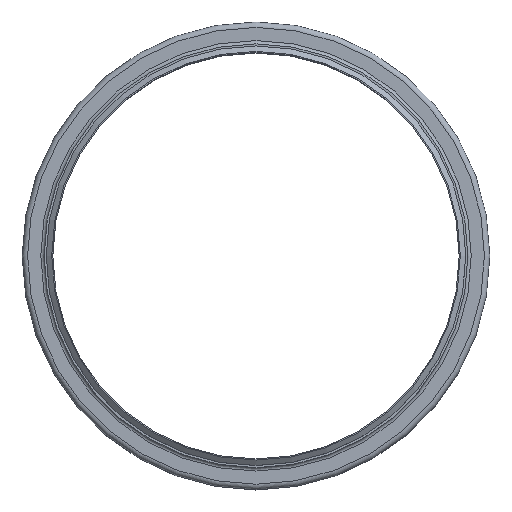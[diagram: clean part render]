
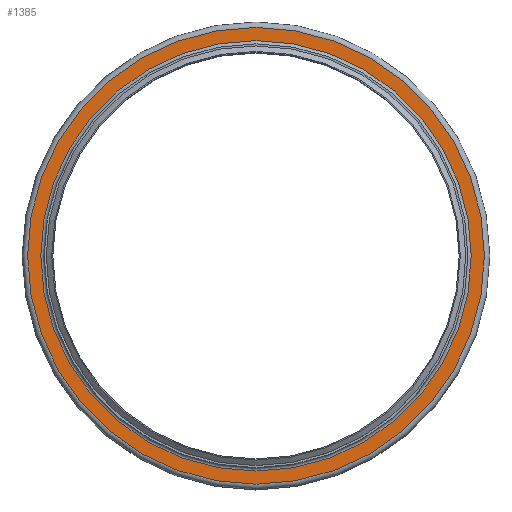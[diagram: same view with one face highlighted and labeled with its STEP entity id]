
A CAD part, top view. The second image highlights one B-rep face of the part: STEP entity #1385.
In plain terms, the highlighted planar face has unit normal (0, 0, 1).
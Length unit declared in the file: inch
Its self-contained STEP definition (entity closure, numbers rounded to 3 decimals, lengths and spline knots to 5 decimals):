
#155=FACE_BOUND('',#416,.T.);
#256=FACE_OUTER_BOUND('',#415,.T.);
#415=EDGE_LOOP('',(#1168));
#416=EDGE_LOOP('',(#1169));
#584=CIRCLE('',#1684,12.31);
#585=CIRCLE('',#1686,13.065);
#703=VERTEX_POINT('',#2631);
#704=VERTEX_POINT('',#2635);
#862=EDGE_CURVE('',#703,#703,#584,.T.);
#863=EDGE_CURVE('',#704,#704,#585,.T.);
#1168=ORIENTED_EDGE('',*,*,#863,.F.);
#1169=ORIENTED_EDGE('',*,*,#862,.T.);
#1284=PLANE('',#1685);
#1385=ADVANCED_FACE('',(#256,#155),#1284,.T.);
#1684=AXIS2_PLACEMENT_3D('',#2633,#2197,#2198);
#1685=AXIS2_PLACEMENT_3D('',#2634,#2199,#2200);
#1686=AXIS2_PLACEMENT_3D('',#2636,#2201,#2202);
#2197=DIRECTION('center_axis',(0.,0.,-1.));
#2198=DIRECTION('ref_axis',(1.,0.,0.));
#2199=DIRECTION('center_axis',(0.,0.,1.));
#2200=DIRECTION('ref_axis',(1.,0.,0.));
#2201=DIRECTION('center_axis',(0.,0.,-1.));
#2202=DIRECTION('ref_axis',(1.,0.,0.));
#2631=CARTESIAN_POINT('',(12.31,0.,-0.19));
#2633=CARTESIAN_POINT('Origin',(0.,0.,-0.19));
#2634=CARTESIAN_POINT('Origin',(0.,13.065,-0.19));
#2635=CARTESIAN_POINT('',(13.065,0.,-0.19));
#2636=CARTESIAN_POINT('Origin',(0.,0.,-0.19));
